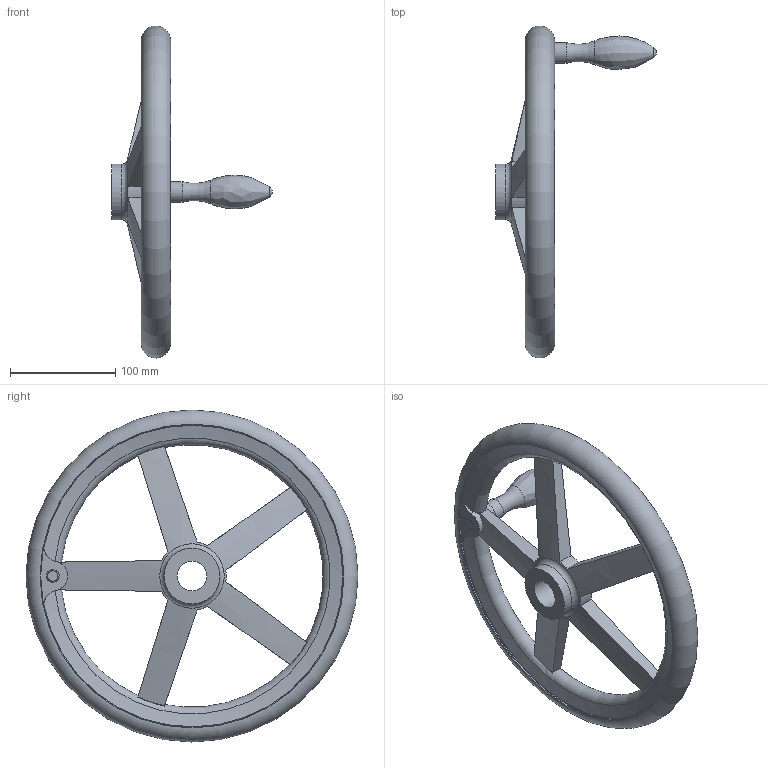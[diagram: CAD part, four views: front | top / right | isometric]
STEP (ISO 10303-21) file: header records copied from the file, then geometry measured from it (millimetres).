
FILE_DESCRIPTION( ( 'STEP AP203' ), '1' );
FILE_NAME( 'C:/Temp/Ganter_Step_05_03_2020/data/1_3/din_950/din_950_b/din_950_b_f/Handwheel DIN 950-GG-315-B28-F.stp', '2020-03-05T10:30:20', ( 'License CC BY-ND 4.0' ), ( 'CADENAS' ), ' ', 'PARTsolutions', ' ' );
FILE_SCHEMA( ( 'CONFIG_CONTROL_DESIGN' ) );
Length unit declared in the file: millimetre
Products named in the file (1): _Handwheel DIN 950-GG-315-B28-F
Bounding box: 152.5 x 314.93 x 314.93 mm (x, y, z)
Volume: 852398.2 mm3; surface area: 143304.5 mm2
Topology: 1 solids, 1 shells, 61 faces, 179 edges, 115 vertices
Faces by surface type: torus 21, cylinder 18, plane 15, cone 5, bspline 1, sphere 1
Full cylindrical faces by diameter (mm): 12 x1, 19.8 x1, 28 x1, 53 x2, 287 x2
Entity records: 2530 total; most frequent: CARTESIAN_POINT 1046, ORIENTED_EDGE 306, DIRECTION 270, EDGE_CURVE 153, AXIS2_PLACEMENT_3D 128, VERTEX_POINT 111, EDGE_LOOP 88, FACE_OUTER_BOUND 77
